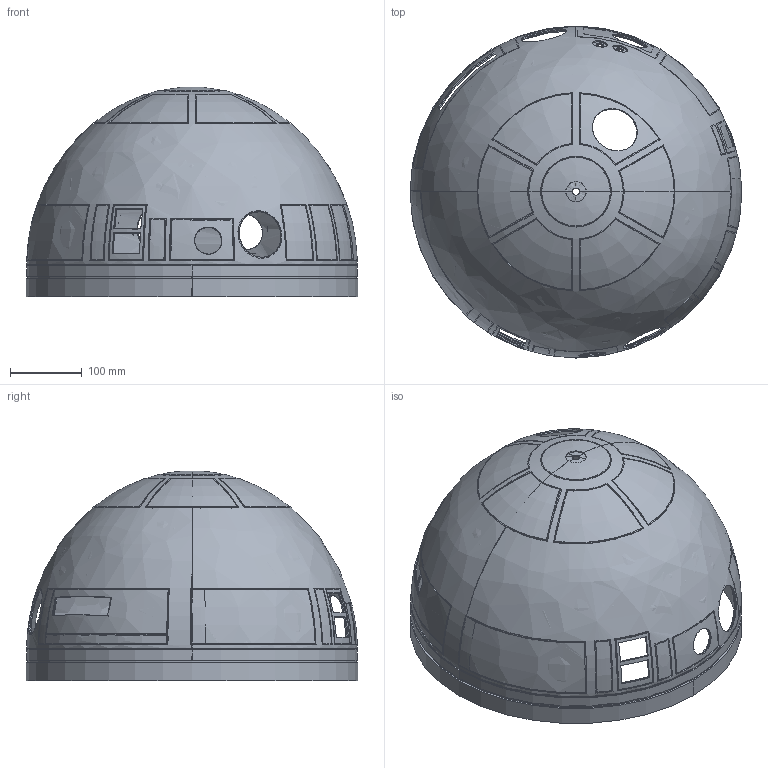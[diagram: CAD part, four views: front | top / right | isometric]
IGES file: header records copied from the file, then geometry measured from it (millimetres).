
Start section: 3D InterOp IGES (Version 21 0 3), Spatial Corp. Copyright (c) 1999-2007.
Global section: file name: CSR Dome - 20140503.igs; native system: Spatial Corp.; preprocessor: 3D InterOp GENERIC/IGES 3.0; author: Noname; organization: Noname; date: 20140503.014659; units: inch
Bounding box: 462.79 x 462.79 x 291.98 mm (x, y, z)
Surface area: 1541637.2 mm2 (no closed solid volume)
Topology: 0 solids, 2 shells, 353 faces, 1998 edges, 1982 vertices
Faces by surface type: bspline 167, revolution 122, offset 33, extrusion 31
